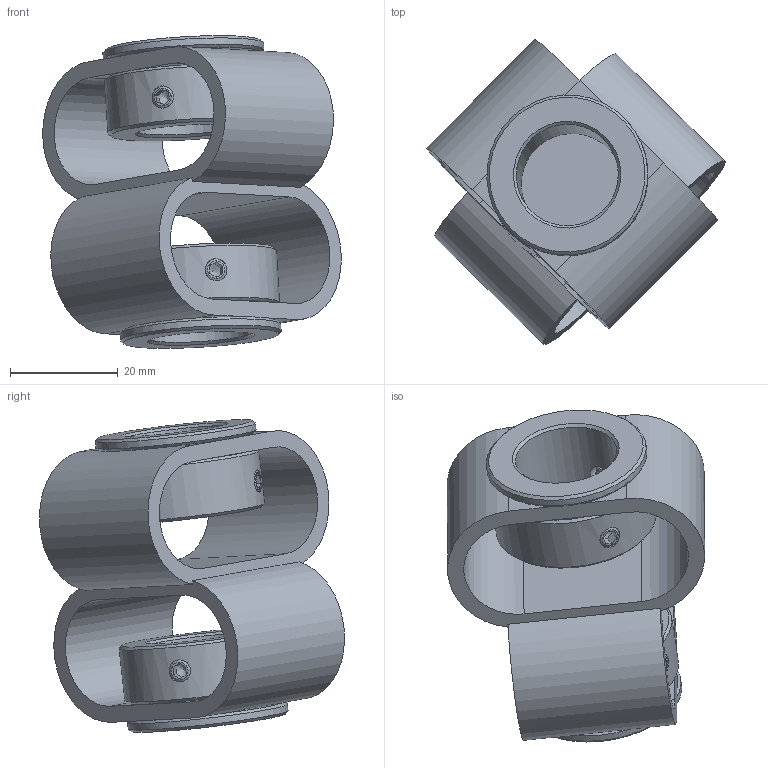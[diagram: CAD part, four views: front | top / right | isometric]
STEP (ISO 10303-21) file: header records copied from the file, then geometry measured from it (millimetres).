
FILE_DESCRIPTION(/* description */ (''),/* implementation_level */ '2;1');
FILE_NAME(/* name */ 'E:\ABP_bauteile\Doppelschlaufenkupplung\DKPS_5658\Doppelschlaufenkupplung_DKPS_5658_19_19.stp',/* time_stamp */ '2015-03-13T12:00:42+01:00',/* author */ ('Rob'),/* organization */ (''),/* preprocessor_version */ 'ST-DEVELOPER v15.6',/* originating_system */ 'Autodesk Inventor 2015',/* authorisation */ '');
FILE_SCHEMA (('CONFIG_CONTROL_DESIGN'));
Length unit declared in the file: millimetre
Products named in the file (1): Bauteil66
Bounding box: 55.53 x 56.74 x 58.16 mm (x, y, z)
Volume: 27621.6 mm3; surface area: 17965.1 mm2
Topology: 1 solids, 1 shells, 142 faces, 360 edges, 218 vertices
Faces by surface type: plane 84, cone 30, cylinder 28
Full cylindrical faces by diameter (mm): 4.134 x8, 19 x2, 21.5 x2, 23 x4, 30 x4
Entity records: 4088 total; most frequent: CARTESIAN_POINT 1027, DIRECTION 646, ORIENTED_EDGE 556, EDGE_CURVE 278, AXIS2_PLACEMENT_3D 257, EDGE_LOOP 210, VERTEX_POINT 182, FACE_OUTER_BOUND 142
